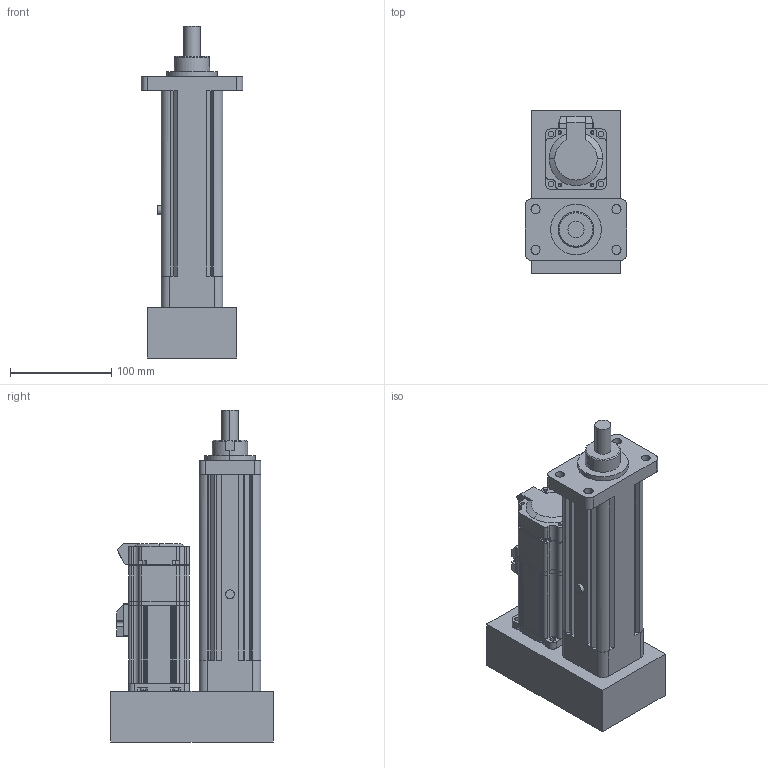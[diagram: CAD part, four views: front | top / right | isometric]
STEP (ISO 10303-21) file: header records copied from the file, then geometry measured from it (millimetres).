
FILE_DESCRIPTION (( 'STEP AP203' ), '1' );
FILE_NAME ('S2殏殿ヶ楊擘假蚾.STEP', '2024-05-27T05:12:15', ( '' ), ( '' ), 'SwSTEP 2.0', 'SolidWorks 2018', '' );
FILE_SCHEMA (( 'CONFIG_CONTROL_DESIGN' ));
Length unit declared in the file: millimetre
Products named in the file (3): S2殏殿ヶ楊擘; 陓豎400W 湍价陬; S2殏殿ヶ楊擘假蚾
Assembly tree (2 placements, depth 2):
  S2殏殿ヶ楊擘假蚾
    S2殏殿ヶ楊擘
    陓豎400W 湍价陬
Bounding box: 100 x 161 x 328 mm (x, y, z)
Volume: 1137463.4 mm3; surface area: 263960.4 mm2
Topology: 1 solids, 29 shells, 723 faces, 2085 edges, 1423 vertices
Faces by surface type: plane 353, cylinder 351, cone 11, torus 8
Entity records: 24235 total; most frequent: DIRECTION 4387, CARTESIAN_POINT 4353, ORIENTED_EDGE 3674, EDGE_CURVE 2085, AXIS2_PLACEMENT_3D 1593, VERTEX_POINT 1423, LINE 1201, VECTOR 1201
